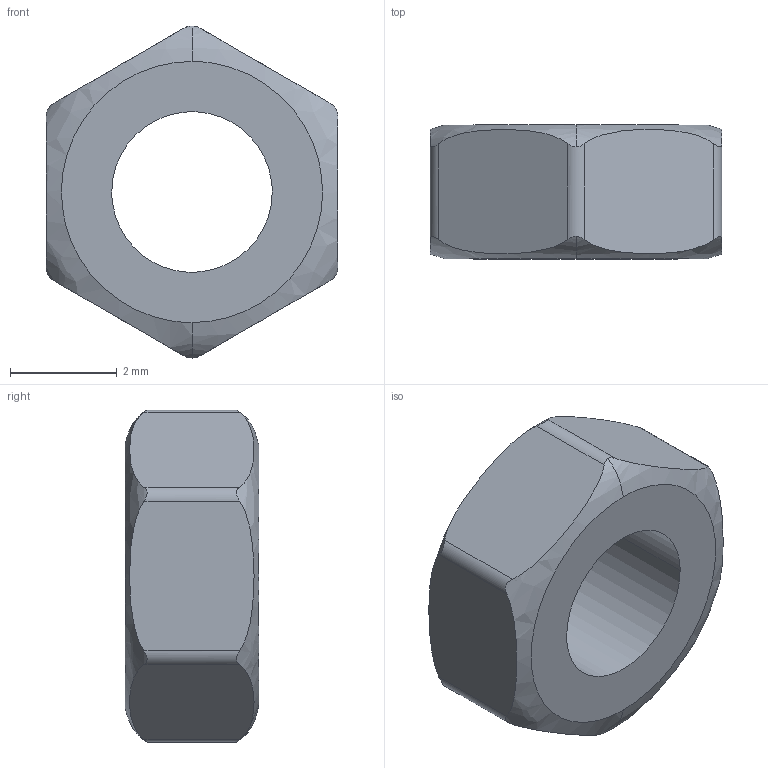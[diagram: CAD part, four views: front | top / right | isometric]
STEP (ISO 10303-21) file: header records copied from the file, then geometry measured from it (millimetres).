
FILE_DESCRIPTION(/* description */ (''),/* implementation_level */ '2;1');
FILE_NAME(/* name */ 'TUERCA~1',/* time_stamp */ '2019-04-02T18:56:21-03:00',/* author */ (''),/* organization */ (''),/* preprocessor_version */ 'ST-DEVELOPER v16.5',/* originating_system */ '',/* authorisation */ '');
FILE_SCHEMA (('AUTOMOTIVE_DESIGN'));
Length unit declared in the file: millimetre
Products named in the file (1): Document
Bounding box: 5.46 x 2.5 x 6.21 mm (x, y, z)
Volume: 45.6 mm3; surface area: 102.4 mm2
Topology: 1 solids, 1 shells, 20 faces, 54 edges, 36 vertices
Faces by surface type: bspline 12, plane 8
Entity records: 849 total; most frequent: CARTESIAN_POINT 494, ORIENTED_EDGE 108, EDGE_CURVE 54, B_SPLINE_CURVE_WITH_KNOTS 44, VERTEX_POINT 36, EDGE_LOOP 22, ADVANCED_FACE 20, FACE_OUTER_BOUND 20
